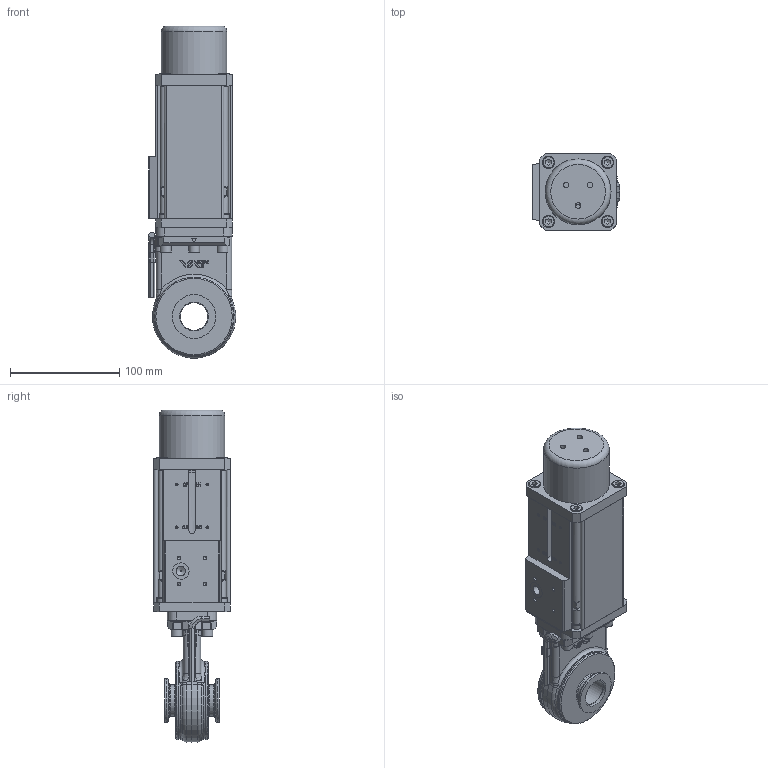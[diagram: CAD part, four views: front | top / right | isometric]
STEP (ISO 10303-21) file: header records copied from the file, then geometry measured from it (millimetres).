
FILE_DESCRIPTION(/* description */ (''),/* implementation_level */ '2;1');
FILE_NAME(/* name */ '1019530160_203.stp',/* time_stamp */ '2016-06-01T12:16:55+02:00',/* author */ (''),/* organization */ (''),/* preprocessor_version */ 'ST-DEVELOPER v15',/* originating_system */ 'SIEMENS PLM Software NX 9.0',/* authorisation */ '');
FILE_SCHEMA (('AP203_CONFIGURATION_CONTROLLED_3D_DESIGN_OF_MECHANICAL_PARTS_AND_ASSEMBLIES_MIM_LF { 1 0 10303 403 2 1 2}'));
Length unit declared in the file: millimetre
Products named in the file (25): 63150-01_25706ID; 63150-01_25707ID; 63152-01.4_25502ID; 70687-01.2; 63172-01; 69852-01; 87466-01.1; n-6134-408; 70708-01.1; 70709-01.1; 70701-01.1; 72771-01.1; 224809.1; 68156-01.1; 69968-01.1; 73280-01_1.1; 228772.1; 318865; 63170-r1; 784789_NX-ARRAGMNTMassbild; 777663_NX-ARRAGMNTMassild; 777465_NX-ARRAGMNTMassbild; 777439_NX-ARRAGMNTMassbild; 777660_NX-ARRAGMNTMassbild; 422194
Assembly tree (42 placements, depth 5):
  422194
    777660_NX-ARRAGMNTMassbild
      68156-01.1  x4
      224809.1  x4
      72771-01.1  x4
      70701-01.1
      70709-01.1
      70708-01.1
      n-6134-408  x4
      777439_NX-ARRAGMNTMassbild
        777465_NX-ARRAGMNTMassbild
          63152-01.4_25502ID
      777663_NX-ARRAGMNTMassild
        70687-01.2
    228772.1  x6
    73280-01_1.1
    69968-01.1
    784789_NX-ARRAGMNTMassbild
      87466-01.1  x2
      63170-r1
        318865
          63150-01_25707ID
          63150-01_25706ID
      69852-01
      63172-01
Bounding box: 79.81 x 70 x 303.44 mm (x, y, z)
Volume: 520515.3 mm3; surface area: 238055.2 mm2
Topology: 55 solids, 55 shells, 984 faces, 2274 edges, 1476 vertices
Faces by surface type: plane 561, cylinder 265, cone 51, torus 43, bspline 42, extrusion 22
Full cylindrical faces by diameter (mm): 1.5 x1, 2.5 x4, 3.3 x4, 3.4 x2, 4 x4, 4.4 x8, 4.96 x10, 5 x21, 6 x34, 6.2 x10, 6.4 x4, 6.475 x4, 7.982 x4, 8.2 x4, 8.566 x1, 9.989 x4, 10 x10, 10.008 x1, 10.012 x4, 11 x4, 11.35 x4, 25.1 x2, 26.3 x2, 28.75 x2, 33.105 x1, 33.45 x1, 34.96 x1, 39.92 x2, 55.25 x1, 59.9 x1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
Entity records: 26659 total; most frequent: CARTESIAN_POINT 5670, DIRECTION 3177, ORIENTED_EDGE 3146, EDGE_CURVE 1573, AXIS2_PLACEMENT_3D 1153, VERTEX_POINT 1117, EDGE_LOOP 991, VECTOR 871
